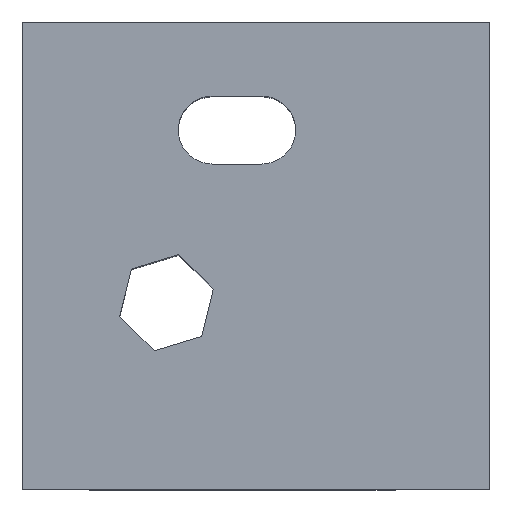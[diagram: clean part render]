
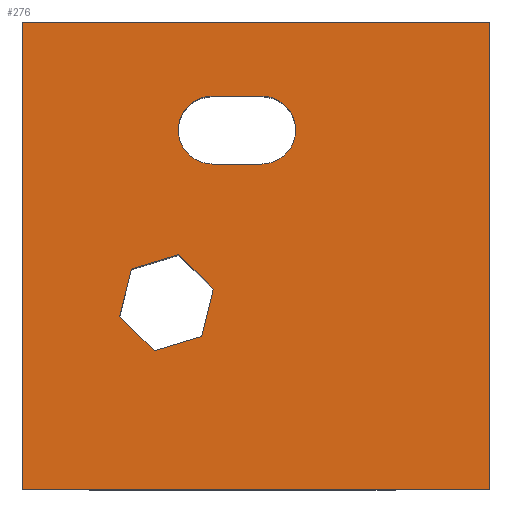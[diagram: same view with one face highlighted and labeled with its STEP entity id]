
A CAD part, top view. The second image highlights one B-rep face of the part: STEP entity #276.
In plain terms, the highlighted planar face has unit normal (0, 0, 1).
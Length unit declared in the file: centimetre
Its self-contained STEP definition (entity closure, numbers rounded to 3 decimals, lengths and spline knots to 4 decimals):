
#63 = PLANE ( 'NONE',  #897 ) ;
#69 = VECTOR ( 'NONE', #626, 100. ) ;
#81 = EDGE_CURVE ( 'NONE', #784, #607, #1248, .T. ) ;
#87 = ORIENTED_EDGE ( 'NONE', *, *, #193, .F. ) ;
#88 = EDGE_CURVE ( 'NONE', #1025, #975, #769, .T. ) ;
#89 = DIRECTION ( 'NONE',  ( 1., 0., 0. ) ) ;
#91 = VECTOR ( 'NONE', #432, 100. ) ;
#96 = ORIENTED_EDGE ( 'NONE', *, *, #1270, .F. ) ;
#133 = DIRECTION ( 'NONE',  ( 0.957, 0.29, 0. ) ) ;
#143 = VECTOR ( 'NONE', #1164, 100. ) ;
#146 = DIRECTION ( 'NONE',  ( -0.238, -0.971, 0. ) ) ;
#147 = EDGE_CURVE ( 'NONE', #1246, #1055, #1070, .T. ) ;
#149 = DIRECTION ( 'NONE',  ( -1., 0., 0. ) ) ;
#163 = CARTESIAN_POINT ( 'NONE',  ( 281.9483, 296.2342, 1000. ) ) ;
#178 = VECTOR ( 'NONE', #89, 100. ) ;
#180 = CARTESIAN_POINT ( 'NONE',  ( 585.0455, 768.7118, 1000. ) ) ;
#182 = AXIS2_PLACEMENT_3D ( 'NONE', #656, #976, #965 ) ;
#193 = EDGE_CURVE ( 'NONE', #713, #380, #918, .T. ) ;
#203 = ORIENTED_EDGE ( 'NONE', *, *, #542, .F. ) ;
#216 = VERTEX_POINT ( 'NONE', #440 ) ;
#222 = CARTESIAN_POINT ( 'NONE',  ( 408.467, 428.3714, 1000. ) ) ;
#229 = DIRECTION ( 'NONE',  ( 0., 0., 1. ) ) ;
#230 = CARTESIAN_POINT ( 'NONE',  ( 334.7359, 502.1025, 1000. ) ) ;
#236 = CARTESIAN_POINT ( 'NONE',  ( 0., 1000., 1000. ) ) ;
#240 = VERTEX_POINT ( 'NONE', #370 ) ;
#249 = CARTESIAN_POINT ( 'NONE',  ( 208.2171, 369.9653, 1000. ) ) ;
#276 = ADVANCED_FACE ( 'NONE', ( #792, #1190, #1101 ), #63, .T. ) ;
#308 = DIRECTION ( 'NONE',  ( 1., 0., 0. ) ) ;
#310 = VECTOR ( 'NONE', #308, 100. ) ;
#317 = CARTESIAN_POINT ( 'NONE',  ( 1000., 0., 1000. ) ) ;
#332 = VERTEX_POINT ( 'NONE', #163 ) ;
#333 = LINE ( 'NONE', #1062, #854 ) ;
#335 = CARTESIAN_POINT ( 'NONE',  ( 232.989, 471.2775, 1000. ) ) ;
#364 = ORIENTED_EDGE ( 'NONE', *, *, #81, .F. ) ;
#370 = CARTESIAN_POINT ( 'NONE',  ( 383.6951, 327.0591, 1000. ) ) ;
#380 = VERTEX_POINT ( 'NONE', #180 ) ;
#387 = DIRECTION ( 'NONE',  ( -0.707, 0.707, 0. ) ) ;
#411 = ORIENTED_EDGE ( 'NONE', *, *, #943, .F. ) ;
#412 = EDGE_CURVE ( 'NONE', #616, #216, #903, .T. ) ;
#417 = LINE ( 'NONE', #1036, #1282 ) ;
#429 = LINE ( 'NONE', #230, #809 ) ;
#430 = CARTESIAN_POINT ( 'NONE',  ( 208.2171, 369.9653, 1000. ) ) ;
#431 = ORIENTED_EDGE ( 'NONE', *, *, #1263, .F. ) ;
#432 = DIRECTION ( 'NONE',  ( 0.707, -0.707, 0. ) ) ;
#440 = CARTESIAN_POINT ( 'NONE',  ( 334.7359, 502.1025, 1000. ) ) ;
#445 = EDGE_LOOP ( 'NONE', ( #203, #565, #1084, #364, #431, #740 ) ) ;
#454 = ORIENTED_EDGE ( 'NONE', *, *, #850, .T. ) ;
#463 = LINE ( 'NONE', #777, #1155 ) ;
#468 = EDGE_LOOP ( 'NONE', ( #948, #454, #1203, #895 ) ) ;
#490 = LINE ( 'NONE', #905, #747 ) ;
#542 = EDGE_CURVE ( 'NONE', #240, #616, #417, .T. ) ;
#565 = ORIENTED_EDGE ( 'NONE', *, *, #1068, .F. ) ;
#597 = CARTESIAN_POINT ( 'NONE',  ( 512.2905, 695.9569, 1000. ) ) ;
#607 = VERTEX_POINT ( 'NONE', #430 ) ;
#616 = VERTEX_POINT ( 'NONE', #222 ) ;
#626 = DIRECTION ( 'NONE',  ( 0., -1., 0. ) ) ;
#634 = CARTESIAN_POINT ( 'NONE',  ( 406.2324, 841.4668, 1000. ) ) ;
#656 = CARTESIAN_POINT ( 'NONE',  ( 406.2324, 768.7118, 1000. ) ) ;
#692 = DIRECTION ( 'NONE',  ( 1., 0., 0. ) ) ;
#699 = LINE ( 'NONE', #810, #178 ) ;
#713 = VERTEX_POINT ( 'NONE', #597 ) ;
#740 = ORIENTED_EDGE ( 'NONE', *, *, #412, .F. ) ;
#745 = ORIENTED_EDGE ( 'NONE', *, *, #775, .F. ) ;
#747 = VECTOR ( 'NONE', #1311, 100. ) ;
#766 = DIRECTION ( 'NONE',  ( 1., 0., 0. ) ) ;
#769 = CIRCLE ( 'NONE', #182, 72.755 ) ;
#772 = CARTESIAN_POINT ( 'NONE',  ( 0., 0., 1000. ) ) ;
#775 = EDGE_CURVE ( 'NONE', #380, #964, #892, .T. ) ;
#777 = CARTESIAN_POINT ( 'NONE',  ( 512.2905, 841.4668, 1000. ) ) ;
#784 = VERTEX_POINT ( 'NONE', #914 ) ;
#792 = FACE_BOUND ( 'NONE', #1008, .T. ) ;
#809 = VECTOR ( 'NONE', #844, 100. ) ;
#810 = CARTESIAN_POINT ( 'NONE',  ( 0., 0., 1000. ) ) ;
#822 = CARTESIAN_POINT ( 'NONE',  ( 406.2324, 695.9569, 1000. ) ) ;
#826 = ORIENTED_EDGE ( 'NONE', *, *, #88, .F. ) ;
#827 = EDGE_CURVE ( 'NONE', #908, #1246, #490, .T. ) ;
#832 = VECTOR ( 'NONE', #387, 100. ) ;
#841 = EDGE_CURVE ( 'NONE', #1055, #1243, #1120, .T. ) ;
#844 = DIRECTION ( 'NONE',  ( -0.957, -0.29, 0. ) ) ;
#847 = CARTESIAN_POINT ( 'NONE',  ( 406.2324, 695.9569, 1000. ) ) ;
#850 = EDGE_CURVE ( 'NONE', #1243, #908, #699, .T. ) ;
#854 = VECTOR ( 'NONE', #133, 100. ) ;
#892 = CIRCLE ( 'NONE', #1107, 72.755 ) ;
#895 = ORIENTED_EDGE ( 'NONE', *, *, #147, .T. ) ;
#897 = AXIS2_PLACEMENT_3D ( 'NONE', #1304, #1185, #692 ) ;
#903 = LINE ( 'NONE', #912, #832 ) ;
#905 = CARTESIAN_POINT ( 'NONE',  ( 1000., 1000., 1000. ) ) ;
#908 = VERTEX_POINT ( 'NONE', #317 ) ;
#911 = CARTESIAN_POINT ( 'NONE',  ( 0., 1000., 1000. ) ) ;
#912 = CARTESIAN_POINT ( 'NONE',  ( 408.467, 428.3714, 1000. ) ) ;
#914 = CARTESIAN_POINT ( 'NONE',  ( 232.989, 471.2775, 1000. ) ) ;
#918 = CIRCLE ( 'NONE', #1298, 72.755 ) ;
#943 = EDGE_CURVE ( 'NONE', #975, #713, #1331, .T. ) ;
#948 = ORIENTED_EDGE ( 'NONE', *, *, #841, .T. ) ;
#964 = VERTEX_POINT ( 'NONE', #1139 ) ;
#965 = DIRECTION ( 'NONE',  ( 1., 0., 0. ) ) ;
#975 = VERTEX_POINT ( 'NONE', #847 ) ;
#976 = DIRECTION ( 'NONE',  ( 0., 0., 1. ) ) ;
#1007 = EDGE_CURVE ( 'NONE', #607, #332, #1156, .T. ) ;
#1008 = EDGE_LOOP ( 'NONE', ( #826, #96, #745, #87, #411 ) ) ;
#1025 = VERTEX_POINT ( 'NONE', #634 ) ;
#1036 = CARTESIAN_POINT ( 'NONE',  ( 383.6951, 327.0591, 1000. ) ) ;
#1055 = VERTEX_POINT ( 'NONE', #236 ) ;
#1062 = CARTESIAN_POINT ( 'NONE',  ( 281.9483, 296.2342, 1000. ) ) ;
#1064 = CARTESIAN_POINT ( 'NONE',  ( 512.2905, 768.7118, 1000. ) ) ;
#1068 = EDGE_CURVE ( 'NONE', #332, #240, #333, .T. ) ;
#1070 = LINE ( 'NONE', #1174, #143 ) ;
#1084 = ORIENTED_EDGE ( 'NONE', *, *, #1007, .F. ) ;
#1101 = FACE_OUTER_BOUND ( 'NONE', #468, .T. ) ;
#1107 = AXIS2_PLACEMENT_3D ( 'NONE', #1116, #1300, #1197 ) ;
#1116 = CARTESIAN_POINT ( 'NONE',  ( 512.2905, 768.7118, 1000. ) ) ;
#1120 = LINE ( 'NONE', #911, #69 ) ;
#1131 = VECTOR ( 'NONE', #146, 100. ) ;
#1139 = CARTESIAN_POINT ( 'NONE',  ( 512.2905, 841.4668, 1000. ) ) ;
#1155 = VECTOR ( 'NONE', #149, 100. ) ;
#1156 = LINE ( 'NONE', #249, #91 ) ;
#1164 = DIRECTION ( 'NONE',  ( -1., 0., 0. ) ) ;
#1174 = CARTESIAN_POINT ( 'NONE',  ( 0., 1000., 1000. ) ) ;
#1178 = CARTESIAN_POINT ( 'NONE',  ( 1000., 1000., 1000. ) ) ;
#1185 = DIRECTION ( 'NONE',  ( 0., 0., 1. ) ) ;
#1190 = FACE_BOUND ( 'NONE', #445, .T. ) ;
#1197 = DIRECTION ( 'NONE',  ( 1., 0., 0. ) ) ;
#1203 = ORIENTED_EDGE ( 'NONE', *, *, #827, .T. ) ;
#1216 = DIRECTION ( 'NONE',  ( 0.238, 0.971, 0. ) ) ;
#1243 = VERTEX_POINT ( 'NONE', #772 ) ;
#1246 = VERTEX_POINT ( 'NONE', #1178 ) ;
#1248 = LINE ( 'NONE', #335, #1131 ) ;
#1263 = EDGE_CURVE ( 'NONE', #216, #784, #429, .T. ) ;
#1270 = EDGE_CURVE ( 'NONE', #964, #1025, #463, .T. ) ;
#1282 = VECTOR ( 'NONE', #1216, 100. ) ;
#1298 = AXIS2_PLACEMENT_3D ( 'NONE', #1064, #229, #766 ) ;
#1300 = DIRECTION ( 'NONE',  ( 0., 0., 1. ) ) ;
#1304 = CARTESIAN_POINT ( 'NONE',  ( 0., 0., 1000. ) ) ;
#1311 = DIRECTION ( 'NONE',  ( 0., 1., 0. ) ) ;
#1331 = LINE ( 'NONE', #822, #310 ) ;
